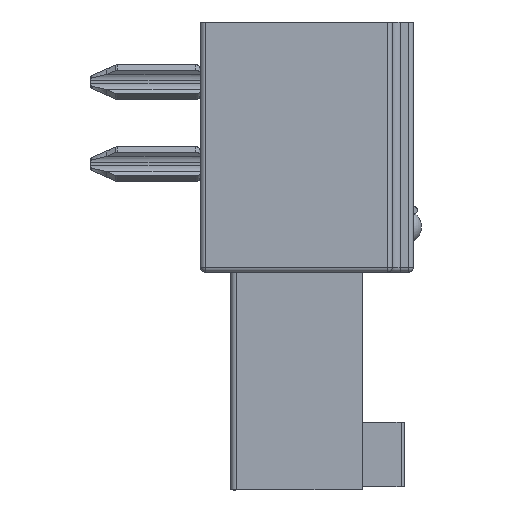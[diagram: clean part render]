
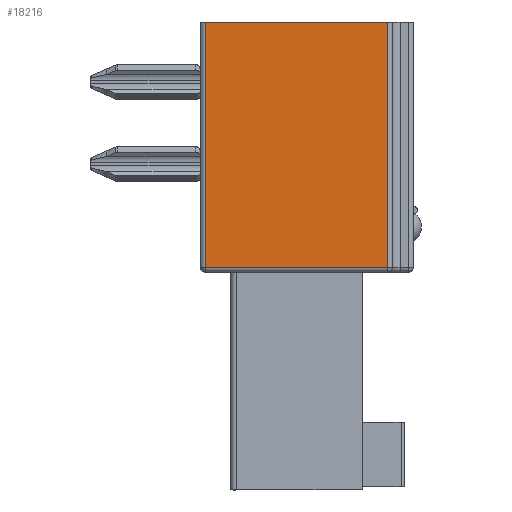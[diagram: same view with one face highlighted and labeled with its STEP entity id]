
A CAD part, left-side view. The second image highlights one B-rep face of the part: STEP entity #18216.
In plain terms, the highlighted planar face has unit normal (-1, 0, 0).
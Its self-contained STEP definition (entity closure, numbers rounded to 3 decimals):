
#36=DIRECTION('',(0.,1.,0.));
#37=VECTOR('',#36,5.65);
#38=CARTESIAN_POINT('',(9.158,1.05,-3.4));
#39=LINE('',#38,#37);
#6276=DIRECTION('',(0.,0.,-1.));
#6277=VECTOR('',#6276,7.6);
#6278=CARTESIAN_POINT('',(9.158,6.7,-3.4));
#6279=LINE('',#6278,#6277);
#6288=DIRECTION('',(0.,0.,1.));
#6289=VECTOR('',#6288,7.6);
#6290=CARTESIAN_POINT('',(9.158,1.05,-11.));
#6291=LINE('',#6290,#6289);
#6520=DIRECTION('',(0.,-1.,0.));
#6521=VECTOR('',#6520,5.65);
#6522=CARTESIAN_POINT('',(9.158,6.7,-11.));
#6523=LINE('',#6522,#6521);
#7821=CARTESIAN_POINT('',(9.158,1.05,-3.4));
#7822=VERTEX_POINT('',#7821);
#7823=CARTESIAN_POINT('',(9.158,6.7,-3.4));
#7824=VERTEX_POINT('',#7823);
#8464=CARTESIAN_POINT('',(9.158,6.7,-11.));
#8465=VERTEX_POINT('',#8464);
#8466=CARTESIAN_POINT('',(9.158,1.05,-11.));
#8467=VERTEX_POINT('',#8466);
#18203=CARTESIAN_POINT('',(9.158,3.55,-3.4));
#18204=DIRECTION('',(1.,0.,0.));
#18205=DIRECTION('',(0.,-1.,0.));
#18206=AXIS2_PLACEMENT_3D('',#18203,#18204,#18205);
#18207=PLANE('',#18206);
#18209=ORIENTED_EDGE('',*,*,#18208,.F.);
#18211=ORIENTED_EDGE('',*,*,#18210,.F.);
#18212=ORIENTED_EDGE('',*,*,#18195,.F.);
#18213=ORIENTED_EDGE('',*,*,#9657,.F.);
#18214=EDGE_LOOP('',(#18209,#18211,#18212,#18213));
#18215=FACE_OUTER_BOUND('',#18214,.F.);
#18216=ADVANCED_FACE('',(#18215),#18207,.F.);
#9657=EDGE_CURVE('',#7822,#7824,#39,.T.);
#18195=EDGE_CURVE('',#7824,#8465,#6279,.T.);
#18208=EDGE_CURVE('',#8467,#7822,#6291,.T.);
#18210=EDGE_CURVE('',#8465,#8467,#6523,.T.);
